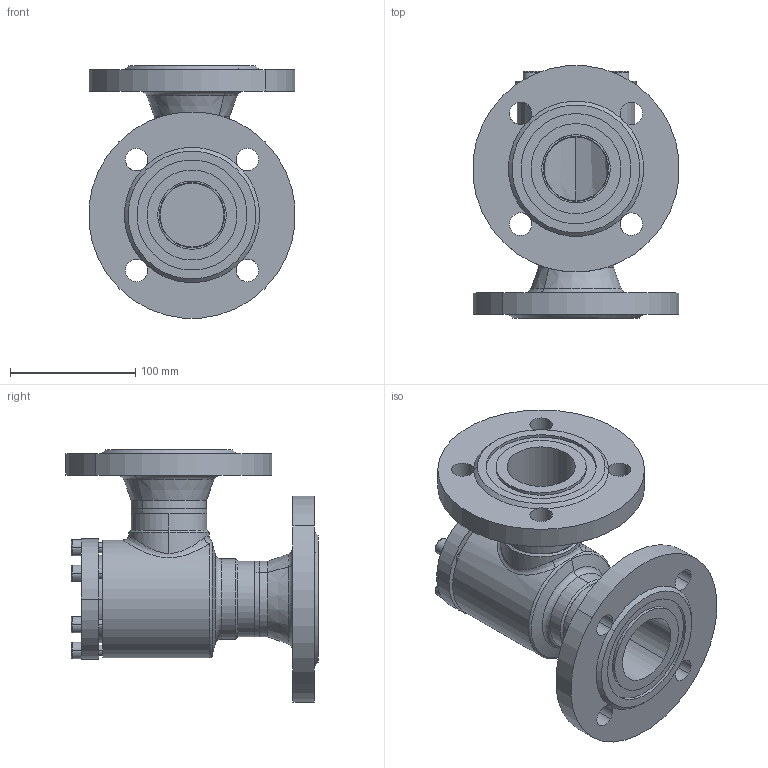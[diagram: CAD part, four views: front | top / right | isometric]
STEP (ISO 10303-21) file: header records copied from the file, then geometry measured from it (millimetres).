
FILE_DESCRIPTION (( 'STEP AP214' ), '1' );
FILE_NAME ('SS52420D15-DN050_DIN-FL-N_PS40.STEP', '2006-05-02T05:55:11', ( 'Herr Grams' ), ( 'AWP GmbH' ), 'SwSTEP 2.0', 'SolidWorks 2002296', '' );
FILE_SCHEMA (( 'AUTOMOTIVE_DESIGN' ));
Length unit declared in the file: millimetre
Products named in the file (9): SS52420D15-DN050_DIN-FL-N_PS40; Gehäuse-kpl16420-DN050_DIN_PS40_Standard; Gehäuse16400-DN050_Standard; bead16420-Geh-050-2_Standard; bead16420-Geh-050-1_Standard; Flansch-DIN2635-Nut_PS40_DIN-Flansch-DN050_PS40-Nut; SS52300E15_Deck+Schr-DN40-50_Standard; Deckel52300E15-DN40-50_Standard; Zylinderschraube-DIN912_M 8x 25
Assembly tree (14 placements, depth 3):
  SS52420D15-DN050_DIN-FL-N_PS40
    Gehäuse-kpl16420-DN050_DIN_PS40_Standard
      Gehäuse16400-DN050_Standard
      bead16420-Geh-050-1_Standard
      Flansch-DIN2635-Nut_PS40_DIN-Flansch-DN050_PS40-Nut  x2
      bead16420-Geh-050-2_Standard
    SS52300E15_Deck+Schr-DN40-50_Standard
      Zylinderschraube-DIN912_M 8x 25  x6
      Deckel52300E15-DN40-50_Standard
Bounding box: 164.37 x 201.19 x 201.19 mm (x, y, z)
Volume: 1155033.2 mm3; surface area: 237711.2 mm2
Topology: 12 solids, 12 shells, 256 faces, 585 edges, 367 vertices
Faces by surface type: cylinder 94, plane 84, cone 48, torus 20, bspline 10
Entity records: 16164 total; most frequent: CARTESIAN_POINT 12500, DIRECTION 705, ORIENTED_EDGE 626, EDGE_CURVE 313, AXIS2_PLACEMENT_3D 299, VERTEX_POINT 195, EDGE_LOOP 166, CIRCLE 156
